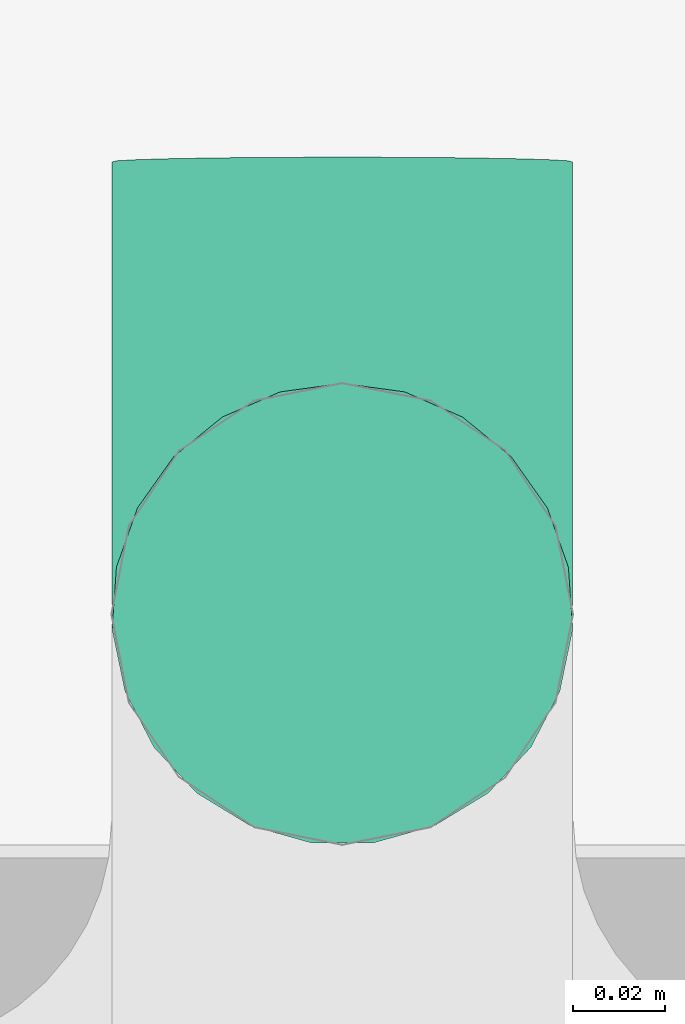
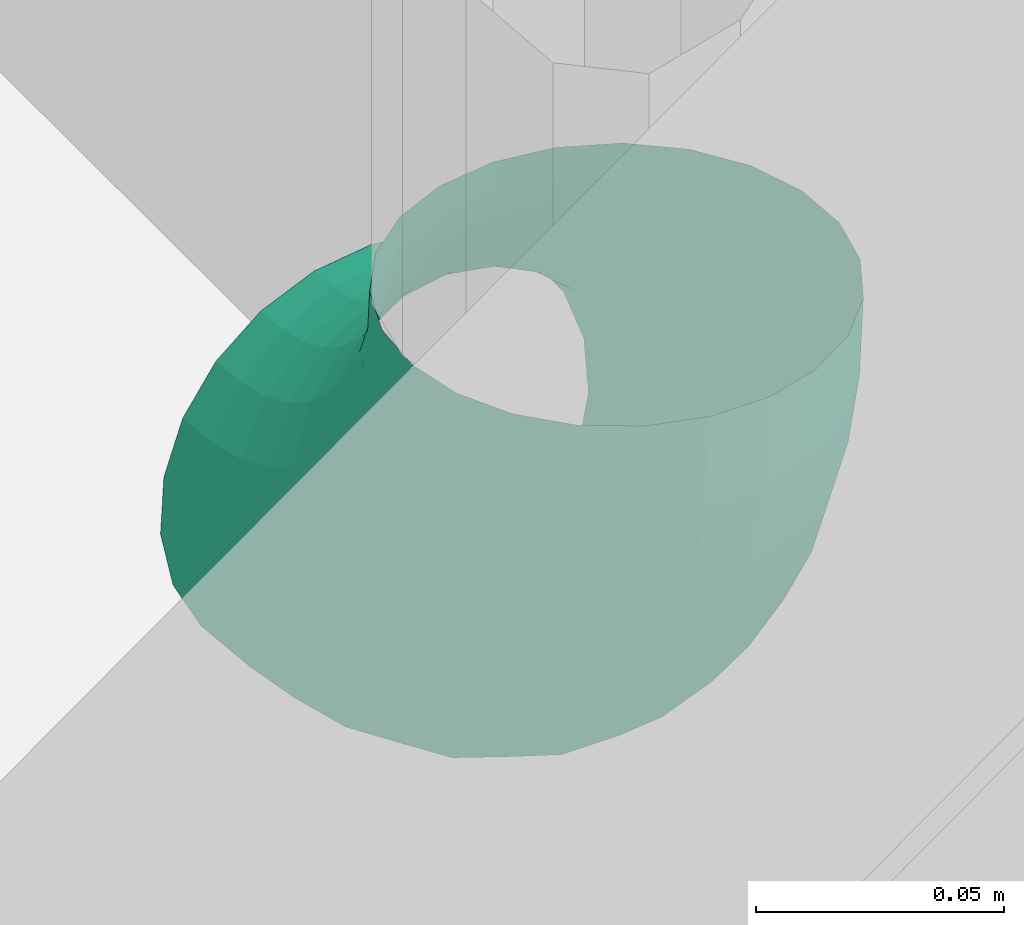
# One storey, part 98 of 106: 1 flow fitting.
"""IFC2X3 building model written with IfcOpenShell, lengths in metres."""

from ifc_helpers import new_model, entity, si_unit, converted_unit, derived_unit, money_unit, direction, frame, origin_with_axes, place, context, subcontext, project, spatial, open_shell, surface_model, material, type_object, element, save


model = new_model("IFC2X3")

# Units and contexts
model_context = context("Model", 3, precision=1e-05, world=origin_with_axes(), true_north=direction((0.0, 1.0)))
body_context = subcontext(model_context, "Body", "Model", "MODEL_VIEW", scale=1.0)
ifc_project = project(units=[si_unit("LENGTHUNIT", "METRE"), si_unit("AREAUNIT", "SQUARE_METRE"), si_unit("VOLUMEUNIT", "CUBIC_METRE"), si_unit("ABSORBEDDOSEUNIT", "GRAY"), si_unit("AMOUNTOFSUBSTANCEUNIT", "MOLE"), si_unit("DOSEEQUIVALENTUNIT", "SIEVERT"), si_unit("ELECTRICCAPACITANCEUNIT", "FARAD"), si_unit("ELECTRICCHARGEUNIT", "COULOMB"), si_unit("ELECTRICCONDUCTANCEUNIT", "SIEMENS"), si_unit("ELECTRICCURRENTUNIT", "AMPERE"), si_unit("ELECTRICRESISTANCEUNIT", "OHM"), si_unit("ELECTRICVOLTAGEUNIT", "VOLT"), si_unit("ENERGYUNIT", "JOULE"), si_unit("FORCEUNIT", "NEWTON"), si_unit("FREQUENCYUNIT", "HERTZ"), si_unit("ILLUMINANCEUNIT", "LUX"), si_unit("INDUCTANCEUNIT", "HENRY"), si_unit("LUMINOUSFLUXUNIT", "LUMEN"), si_unit("LUMINOUSINTENSITYUNIT", "CANDELA"), si_unit("MAGNETICFLUXDENSITYUNIT", "TESLA"), si_unit("MAGNETICFLUXUNIT", "WEBER"), si_unit("MASSUNIT", "GRAM"), converted_unit("PLANEANGLEUNIT", "degree", entity("IfcReal", 0.0174532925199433), si_unit("PLANEANGLEUNIT", "RADIAN"), dimensions=[0, 0, 0, 0, 0, 0, 0]), si_unit("POWERUNIT", "WATT"), si_unit("PRESSUREUNIT", "PASCAL"), si_unit("RADIOACTIVITYUNIT", "BECQUEREL"), si_unit("SOLIDANGLEUNIT", "STERADIAN"), si_unit("THERMODYNAMICTEMPERATUREUNIT", "KELVIN"), si_unit("TIMEUNIT", "SECOND"), derived_unit("ACCELERATIONUNIT", [(si_unit("LENGTHUNIT", "METRE"), 1), (si_unit("TIMEUNIT", "SECOND"), -2)]), derived_unit("ANGULARVELOCITYUNIT", [(converted_unit("PLANEANGLEUNIT", "degree", entity("IfcReal", 0.0174532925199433), si_unit("PLANEANGLEUNIT", "RADIAN"), dimensions=[0, 0, 0, 0, 0, 0, 0]), 1), (si_unit("TIMEUNIT", "SECOND"), -1)]), derived_unit("CURVATUREUNIT", [(converted_unit("PLANEANGLEUNIT", "degree", entity("IfcReal", 0.0174532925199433), si_unit("PLANEANGLEUNIT", "RADIAN"), dimensions=[0, 0, 0, 0, 0, 0, 0]), 1), (si_unit("LENGTHUNIT", "METRE"), -1)]), derived_unit("DYNAMICVISCOSITYUNIT", [(si_unit("PRESSUREUNIT", "PASCAL"), 1), (si_unit("TIMEUNIT", "SECOND"), 1)]), derived_unit("HEATFLUXDENSITYUNIT", [(si_unit("POWERUNIT", "WATT"), 1), (si_unit("LENGTHUNIT", "METRE"), -2)]), derived_unit("HEATINGVALUEUNIT", [(si_unit("ENERGYUNIT", "JOULE"), 1), (si_unit("MASSUNIT", "GRAM"), -1)]), derived_unit("INTEGERCOUNTRATEUNIT", [(si_unit("TIMEUNIT", "SECOND"), -1)]), derived_unit("IONCONCENTRATIONUNIT", [(si_unit("MASSUNIT", "GRAM"), 1), (si_unit("VOLUMEUNIT", "CUBIC_METRE"), -1)]), derived_unit("ISOTHERMALMOISTURECAPACITYUNIT", [(si_unit("VOLUMEUNIT", "CUBIC_METRE"), 1), (si_unit("MASSUNIT", "GRAM"), -1)]), derived_unit("KINEMATICVISCOSITYUNIT", [(si_unit("AREAUNIT", "SQUARE_METRE"), 1), (si_unit("TIMEUNIT", "SECOND"), -1)]), derived_unit("LINEARFORCEUNIT", [(si_unit("FORCEUNIT", "NEWTON"), 1), (si_unit("LENGTHUNIT", "METRE"), -1)]), derived_unit("LINEARMOMENTUNIT", [(si_unit("FORCEUNIT", "NEWTON"), 1), (si_unit("LENGTHUNIT", "METRE"), -1)]), derived_unit("LINEARSTIFFNESSUNIT", [(si_unit("FORCEUNIT", "NEWTON"), 1), (si_unit("LENGTHUNIT", "METRE"), -1)]), derived_unit("LINEARVELOCITYUNIT", [(si_unit("LENGTHUNIT", "METRE"), 1), (si_unit("TIMEUNIT", "SECOND"), -1)]), derived_unit("LUMINOUSINTENSITYDISTRIBUTIONUNIT", [(si_unit("LUMINOUSINTENSITYUNIT", "CANDELA"), 1), (si_unit("LUMINOUSFLUXUNIT", "LUMEN"), -1)]), derived_unit("MASSDENSITYUNIT", [(si_unit("MASSUNIT", "GRAM"), 1), (si_unit("VOLUMEUNIT", "CUBIC_METRE"), -1)]), derived_unit("MASSFLOWRATEUNIT", [(si_unit("MASSUNIT", "GRAM"), 1), (si_unit("TIMEUNIT", "SECOND"), -1)]), derived_unit("MASSPERLENGTHUNIT", [(si_unit("MASSUNIT", "GRAM"), 1), (si_unit("LENGTHUNIT", "METRE"), -1)]), derived_unit("MODULUSOFELASTICITYUNIT", [(si_unit("FORCEUNIT", "NEWTON"), 1), (si_unit("AREAUNIT", "SQUARE_METRE"), -1)]), derived_unit("MODULUSOFLINEARSUBGRADEREACTIONUNIT", [(si_unit("FORCEUNIT", "NEWTON"), 1), (si_unit("LENGTHUNIT", "METRE"), -2)]), derived_unit("MODULUSOFROTATIONALSUBGRADEREACTIONUNIT", [(si_unit("FORCEUNIT", "NEWTON"), 1), (si_unit("LENGTHUNIT", "METRE"), 1)]), derived_unit("MODULUSOFSUBGRADEREACTIONUNIT", [(si_unit("FORCEUNIT", "NEWTON"), 1), (si_unit("VOLUMEUNIT", "CUBIC_METRE"), -1)]), derived_unit("MOISTUREDIFFUSIVITYUNIT", [(si_unit("VOLUMEUNIT", "CUBIC_METRE"), 1), (si_unit("TIMEUNIT", "SECOND"), -1)]), derived_unit("MOLECULARWEIGHTUNIT", [(si_unit("MASSUNIT", "GRAM"), 1), (si_unit("AMOUNTOFSUBSTANCEUNIT", "MOLE"), -1)]), derived_unit("PLANARFORCEUNIT", [(si_unit("FORCEUNIT", "NEWTON"), 1), (si_unit("LENGTHUNIT", "METRE"), -2)]), derived_unit("ROTATIONALFREQUENCYUNIT", [(si_unit("TIMEUNIT", "SECOND"), -1)]), derived_unit("ROTATIONALMASSUNIT", [(si_unit("MASSUNIT", "GRAM"), 1), (si_unit("LENGTHUNIT", "METRE"), 2)]), derived_unit("ROTATIONALSTIFFNESSUNIT", [(si_unit("FORCEUNIT", "NEWTON"), 1), (si_unit("LENGTHUNIT", "METRE"), 1), (converted_unit("PLANEANGLEUNIT", "degree", entity("IfcReal", 0.0174532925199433), si_unit("PLANEANGLEUNIT", "RADIAN"), dimensions=[0, 0, 0, 0, 0, 0, 0]), -1)]), derived_unit("SECTIONAREAINTEGRALUNIT", [(si_unit("LENGTHUNIT", "METRE"), 5)]), derived_unit("SECTIONMODULUSUNIT", [(si_unit("LENGTHUNIT", "METRE"), 3)]), derived_unit("SHEARMODULUSUNIT", [(si_unit("FORCEUNIT", "NEWTON"), 1), (si_unit("AREAUNIT", "SQUARE_METRE"), -1)]), derived_unit("SOUNDPOWERUNIT", [(si_unit("ENERGYUNIT", "JOULE"), 1), (si_unit("TIMEUNIT", "SECOND"), -1)]), derived_unit("SPECIFICHEATCAPACITYUNIT", [(si_unit("FORCEUNIT", "NEWTON"), 1), (si_unit("MASSUNIT", "GRAM"), -1), (si_unit("THERMODYNAMICTEMPERATUREUNIT", "KELVIN"), -1)]), derived_unit("TEMPERATUREGRADIENTUNIT", [(si_unit("THERMODYNAMICTEMPERATUREUNIT", "KELVIN"), 1), (si_unit("LENGTHUNIT", "METRE"), -1)]), derived_unit("THERMALADMITTANCEUNIT", [(si_unit("POWERUNIT", "WATT"), 1), (si_unit("AREAUNIT", "SQUARE_METRE"), -1), (si_unit("THERMODYNAMICTEMPERATUREUNIT", "KELVIN"), -1)]), derived_unit("THERMALCONDUCTANCEUNIT", [(si_unit("POWERUNIT", "WATT"), 1), (si_unit("LENGTHUNIT", "METRE"), -1), (si_unit("THERMODYNAMICTEMPERATUREUNIT", "KELVIN"), -1)]), derived_unit("THERMALEXPANSIONCOEFFICIENTUNIT", [(si_unit("THERMODYNAMICTEMPERATUREUNIT", "KELVIN"), -1)]), derived_unit("THERMALRESISTANCEUNIT", [(si_unit("AREAUNIT", "SQUARE_METRE"), 1), (si_unit("POWERUNIT", "WATT"), -1)]), derived_unit("THERMALTRANSMITTANCEUNIT", [(si_unit("POWERUNIT", "WATT"), 1), (si_unit("AREAUNIT", "SQUARE_METRE"), -1), (si_unit("THERMODYNAMICTEMPERATUREUNIT", "KELVIN"), -1)]), derived_unit("TORQUEUNIT", [(si_unit("FORCEUNIT", "NEWTON"), 1), (si_unit("LENGTHUNIT", "METRE"), 1)]), derived_unit("VAPORPERMEABILITYUNIT", [(si_unit("MASSUNIT", "GRAM"), 1), (si_unit("TIMEUNIT", "SECOND"), -1)]), derived_unit("VOLUMETRICFLOWRATEUNIT", [(si_unit("VOLUMEUNIT", "CUBIC_METRE"), 1), (si_unit("TIMEUNIT", "SECOND"), -1)]), derived_unit("WARPINGCONSTANTUNIT", [(si_unit("LENGTHUNIT", "METRE"), 6)]), derived_unit("WARPINGMOMENTUNIT", [(si_unit("FORCEUNIT", "NEWTON"), 1), (si_unit("LENGTHUNIT", "METRE"), 2)]), money_unit("GBP")], contexts=[model_context])

# Site, building, storey, space
site_placement = place(None, origin_with_axes())
site = spatial("IfcSite", under=ifc_project, at=site_placement, Name="Site", CompositionType="ELEMENT")
building_placement = place(site_placement, origin_with_axes())
building = spatial("IfcBuilding", under=site, at=building_placement, Name="Building01", CompositionType="ELEMENT")
storey_placement = place(building_placement, origin_with_axes())
storey = spatial("IfcBuildingStorey", under=building, at=storey_placement, Name="GF", CompositionType="ELEMENT", Elevation=0.0)
space_placement = place(storey_placement, frame((22.371795, 15.69597, 0.0), z_axis=(0.0, 0.0, 1.0), x_axis=(0.99999771, 0.00214134, 0.0)))
space = spatial("IfcSpace", under=storey, at=space_placement, Name="bike store", CompositionType="ELEMENT", InteriorOrExteriorSpace="NOTDEFINED")

# Flow fitting
ifc_material = material(Name="M_BSUK_ColdWater")
pipe_fitting_type = type_object("IfcPipeFittingType", Name="M-BmpElbow-DefaultElbow", PredefinedType="BEND")
flow_fitting_placement = place(storey_placement, frame((22.216022, 15.048, 0.056721), z_axis=(0.0, -0.01999682, -0.99980004), x_axis=(0.0, 0.99980004, -0.01999682)))
element("IfcFlowFitting", 1, at=flow_fitting_placement, inside=space, type_object=pipe_fitting_type, material=ifc_material, Name="M-BmpElbow-DefaultElbow", ObjectType="M-BmpElbow-DefaultElbow", context=body_context, shape_type="SurfaceModel", body=[
    surface_model("IfcShellBasedSurfaceModel", [(-0.008009, -0.01349, -0.048768), (0.0, -0.01349, -0.048146), (0.0, 0.0, -0.05), (-0.007723, 0.0, -0.0506), (-0.015826, -0.01349, -0.05062), (-0.015261, 0.0, -0.052386), (-0.023264, -0.01349, -0.053657), (-0.022432, 0.0, -0.055314), (-0.030143, -0.01349, -0.057807), (-0.029065, 0.0, -0.059315), (-0.036298, -0.01349, -0.062969), (-0.035, 0.0, -0.064293), (-0.041582, -0.01349, -0.06902), (-0.040095, 0.0, -0.070127), (-0.045868, -0.01349, -0.075814), (-0.044228, 0.0, -0.076679), (-0.049054, -0.01349, -0.083189), (-0.0473, 0.0, -0.08379), (-0.051061, -0.01349, -0.090968), (-0.049236, 0.0, -0.091291), (-0.051844, -0.01349, -0.098963), (-0.04999, 0.0, -0.099), (-0.008847, -0.025979, -0.043408), (0.0, -0.025979, -0.042721), (-0.017482, -0.025979, -0.045454), (-0.025697, -0.025979, -0.048809), (-0.033296, -0.025979, -0.053392), (-0.040095, -0.025979, -0.059095), (-0.045932, -0.025979, -0.065779), (-0.050667, -0.025979, -0.073284), (-0.054185, -0.025979, -0.081431), (-0.056403, -0.025979, -0.090023), (-0.057268, -0.025979, -0.098855), (-0.010175, -0.036542, -0.034918), (0.0, -0.036542, -0.034128), (-0.020105, -0.036542, -0.037271), (-0.029553, -0.036542, -0.041129), (-0.038291, -0.036542, -0.0464), (-0.046111, -0.036542, -0.052958), (-0.052823, -0.036542, -0.060645), (-0.058268, -0.036542, -0.069276), (-0.062315, -0.036542, -0.078645), (-0.064865, -0.036542, -0.088526), (-0.065859, -0.036542, -0.098683), (-0.011893, -0.044394, -0.023927), (0.0, -0.044394, -0.023003), (-0.0235, -0.044394, -0.026677), (-0.034544, -0.044394, -0.031187), (-0.044758, -0.044394, -0.037348), (-0.053898, -0.044394, -0.045013), (-0.061744, -0.044394, -0.053998), (-0.068109, -0.044394, -0.064087), (-0.072838, -0.044394, -0.075038), (-0.07582, -0.044394, -0.086588), (-0.076981, -0.044394, -0.09846), (-0.013875, -0.048954, -0.011251), (0.0, -0.048954, -0.010173), (-0.027416, -0.048954, -0.014459), (-0.0403, -0.048954, -0.01972), (-0.052216, -0.048954, -0.026908), (-0.062879, -0.048954, -0.035851), (-0.072033, -0.048954, -0.046333), (-0.079458, -0.048954, -0.058103), (-0.084976, -0.048954, -0.070879), (-0.088454, -0.048954, -0.084353), (-0.089809, -0.048954, -0.098204), (-0.015973, -0.049883, 0.002171), (0.0, -0.049883, 0.003412), (-0.031562, -0.049883, -0.001522), (-0.046394, -0.049883, -0.007579), (-0.060113, -0.049883, -0.015854), (-0.072389, -0.049883, -0.026149), (-0.082927, -0.049883, -0.038216), (-0.091475, -0.049883, -0.051767), (-0.097827, -0.049883, -0.066475), (-0.101831, -0.049883, -0.081987), (-0.103391, -0.049883, -0.097932), (-0.018032, -0.047113, 0.015343), (0.0, -0.047113, 0.016744), (-0.035632, -0.047113, 0.011174), (-0.052376, -0.047113, 0.004336), (-0.067863, -0.047113, -0.005006), (-0.081721, -0.047113, -0.016628), (-0.093618, -0.047113, -0.030251), (-0.103268, -0.047113, -0.045548), (-0.110439, -0.047113, -0.062153), (-0.114959, -0.047113, -0.079665), (-0.116721, -0.047113, -0.097665), (-0.0199, -0.040848, 0.027288), (0.0, -0.040848, 0.028834), (-0.039322, -0.040848, 0.022687), (-0.0578, -0.040848, 0.015141), (-0.074891, -0.040848, 0.004831), (-0.090184, -0.040848, -0.007994), (-0.103313, -0.040848, -0.023028), (-0.113962, -0.040848, -0.039909), (-0.121876, -0.040848, -0.058233), (-0.126865, -0.040848, -0.077559), (-0.128808, -0.040848, -0.097424), (-0.021437, -0.031554, 0.03712), (0.0, -0.031554, 0.038786), (-0.042359, -0.031554, 0.032163), (-0.062264, -0.031554, 0.024035), (-0.080675, -0.031554, 0.012929), (-0.09715, -0.031554, -0.000887), (-0.111293, -0.031554, -0.017083), (-0.122765, -0.031554, -0.035268), (-0.13129, -0.031554, -0.055007), (-0.136664, -0.031554, -0.075826), (-0.138758, -0.031554, -0.097225), (-0.022529, -0.01992, 0.04411), (0.0, -0.01992, 0.045861), (-0.044518, -0.01992, 0.038901), (-0.065438, -0.01992, 0.030358), (-0.084788, -0.01992, 0.018686), (-0.102103, -0.01992, 0.004165), (-0.116966, -0.01992, -0.012856), (-0.129023, -0.01992, -0.031968), (-0.137983, -0.01992, -0.052713), (-0.143631, -0.01992, -0.074593), (-0.145831, -0.01992, -0.097083), (-0.023097, -0.006808, 0.04774), (0.0, -0.006808, 0.049534), (-0.045639, -0.006808, 0.042399), (-0.067087, -0.006808, 0.033641), (-0.086924, -0.006808, 0.021675), (-0.104674, -0.006808, 0.006789), (-0.119912, -0.006808, -0.010661), (-0.132273, -0.006808, -0.030254), (-0.141458, -0.006808, -0.051522), (-0.147248, -0.006808, -0.073953), (-0.149504, -0.006808, -0.09701), (-0.023097, 0.006808, 0.04774), (0.0, 0.006808, 0.049534), (-0.045639, 0.006808, 0.042399), (-0.067087, 0.006808, 0.033641), (-0.086924, 0.006808, 0.021675), (-0.104674, 0.006808, 0.006789), (-0.119912, 0.006808, -0.010661), (-0.132273, 0.006808, -0.030254), (-0.141458, 0.006808, -0.051522), (-0.147248, 0.006808, -0.073953), (-0.149504, 0.006808, -0.09701), (-0.022529, 0.01992, 0.04411), (0.0, 0.01992, 0.045861), (-0.044518, 0.01992, 0.038901), (-0.065438, 0.01992, 0.030358), (-0.084788, 0.01992, 0.018686), (-0.102103, 0.01992, 0.004165), (-0.116966, 0.01992, -0.012856), (-0.129023, 0.01992, -0.031968), (-0.137983, 0.01992, -0.052713), (-0.143631, 0.01992, -0.074593), (-0.145831, 0.01992, -0.097083), (-0.021437, 0.031554, 0.03712), (0.0, 0.031554, 0.038786), (-0.042359, 0.031554, 0.032163), (-0.062264, 0.031554, 0.024035), (-0.080675, 0.031554, 0.012929), (-0.09715, 0.031554, -0.000887), (-0.111293, 0.031554, -0.017083), (-0.122765, 0.031554, -0.035268), (-0.13129, 0.031554, -0.055007), (-0.136664, 0.031554, -0.075826), (-0.138758, 0.031554, -0.097225), (-0.0199, 0.040848, 0.027288), (0.0, 0.040848, 0.028834), (-0.039322, 0.040848, 0.022687), (-0.0578, 0.040848, 0.015141), (-0.074891, 0.040848, 0.004831), (-0.090184, 0.040848, -0.007994), (-0.103313, 0.040848, -0.023028), (-0.113962, 0.040848, -0.039909), (-0.121876, 0.040848, -0.058233), (-0.126865, 0.040848, -0.077559), (-0.128808, 0.040848, -0.097424), (-0.018032, 0.047113, 0.015343), (0.0, 0.047113, 0.016744), (-0.035632, 0.047113, 0.011174), (-0.052376, 0.047113, 0.004336), (-0.067863, 0.047113, -0.005006), (-0.081721, 0.047113, -0.016628), (-0.093618, 0.047113, -0.030251), (-0.103268, 0.047113, -0.045548), (-0.110439, 0.047113, -0.062153), (-0.114959, 0.047113, -0.079665), (-0.116721, 0.047113, -0.097665), (-0.015973, 0.049883, 0.002171), (0.0, 0.049883, 0.003412), (-0.031562, 0.049883, -0.001522), (-0.046394, 0.049883, -0.007579), (-0.060113, 0.049883, -0.015854), (-0.072389, 0.049883, -0.026149), (-0.082927, 0.049883, -0.038216), (-0.091475, 0.049883, -0.051767), (-0.097827, 0.049883, -0.066475), (-0.101831, 0.049883, -0.081987), (-0.103391, 0.049883, -0.097932), (-0.013875, 0.048954, -0.011251), (0.0, 0.048954, -0.010173), (-0.027416, 0.048954, -0.014459), (-0.0403, 0.048954, -0.01972), (-0.052216, 0.048954, -0.026908), (-0.062879, 0.048954, -0.035851), (-0.072033, 0.048954, -0.046333), (-0.079458, 0.048954, -0.058103), (-0.084976, 0.048954, -0.070879), (-0.088454, 0.048954, -0.084353), (-0.089809, 0.048954, -0.098204), (-0.011893, 0.044394, -0.023927), (0.0, 0.044394, -0.023003), (-0.0235, 0.044394, -0.026677), (-0.034544, 0.044394, -0.031187), (-0.044758, 0.044394, -0.037348), (-0.053898, 0.044394, -0.045013), (-0.061744, 0.044394, -0.053998), (-0.068109, 0.044394, -0.064087), (-0.072838, 0.044394, -0.075038), (-0.07582, 0.044394, -0.086588), (-0.076981, 0.044394, -0.09846), (-0.010175, 0.036542, -0.034918), (0.0, 0.036542, -0.034128), (-0.020105, 0.036542, -0.037271), (-0.029553, 0.036542, -0.041129), (-0.038291, 0.036542, -0.0464), (-0.046111, 0.036542, -0.052958), (-0.052823, 0.036542, -0.060645), (-0.058268, 0.036542, -0.069276), (-0.062315, 0.036542, -0.078645), (-0.064865, 0.036542, -0.088526), (-0.065859, 0.036542, -0.098683), (-0.008847, 0.025979, -0.043408), (0.0, 0.025979, -0.042721), (-0.017482, 0.025979, -0.045454), (-0.025697, 0.025979, -0.048809), (-0.033296, 0.025979, -0.053392), (-0.040095, 0.025979, -0.059095), (-0.045932, 0.025979, -0.065779), (-0.050667, 0.025979, -0.073284), (-0.054185, 0.025979, -0.081431), (-0.056403, 0.025979, -0.090023), (-0.057268, 0.025979, -0.098855), (-0.008009, 0.01349, -0.048768), (0.0, 0.01349, -0.048146), (-0.015826, 0.01349, -0.05062), (-0.023264, 0.01349, -0.053657), (-0.030143, 0.01349, -0.057807), (-0.036298, 0.01349, -0.062969), (-0.041582, 0.01349, -0.06902), (-0.045868, 0.01349, -0.075814), (-0.049054, 0.01349, -0.083189), (-0.051061, 0.01349, -0.090968), (-0.051844, 0.01349, -0.098963)], [open_shell([[[0, 1, 2, 3]], [[4, 0, 3, 5]], [[6, 4, 5, 7]], [[8, 6, 7, 9]], [[10, 8, 9, 11]], [[12, 10, 11, 13]], [[14, 12, 13, 15]], [[16, 14, 15, 17]], [[18, 16, 17, 19]], [[20, 18, 19, 21]], [[22, 23, 1, 0]], [[24, 22, 0, 4]], [[25, 24, 4, 6]], [[26, 25, 6, 8]], [[27, 26, 8, 10]], [[28, 27, 10, 12]], [[29, 28, 12, 14]], [[30, 29, 14, 16]], [[31, 30, 16, 18]], [[32, 31, 18, 20]], [[33, 34, 23, 22]], [[35, 33, 22, 24]], [[36, 35, 24, 25]], [[37, 36, 25, 26]], [[38, 37, 26, 27]], [[39, 38, 27, 28]], [[40, 39, 28, 29]], [[41, 40, 29, 30]], [[42, 41, 30, 31]], [[43, 42, 31, 32]], [[44, 45, 34, 33]], [[46, 44, 33, 35]], [[47, 46, 35, 36]], [[48, 47, 36, 37]], [[49, 48, 37, 38]], [[50, 49, 38, 39]], [[51, 50, 39, 40]], [[52, 51, 40, 41]], [[53, 52, 41, 42]], [[54, 53, 42, 43]], [[55, 56, 45, 44]], [[57, 55, 44, 46]], [[58, 57, 46, 47]], [[59, 58, 47, 48]], [[60, 59, 48, 49]], [[61, 60, 49, 50]], [[62, 61, 50, 51]], [[63, 62, 51, 52]], [[64, 63, 52, 53]], [[65, 64, 53, 54]], [[66, 67, 56, 55]], [[68, 66, 55, 57]], [[69, 68, 57, 58]], [[70, 69, 58, 59]], [[71, 70, 59, 60]], [[72, 71, 60, 61]], [[73, 72, 61, 62]], [[74, 73, 62, 63]], [[75, 74, 63, 64]], [[76, 75, 64, 65]], [[77, 78, 67, 66]], [[79, 77, 66, 68]], [[80, 79, 68, 69]], [[81, 80, 69, 70]], [[82, 81, 70, 71]], [[83, 82, 71, 72]], [[84, 83, 72, 73]], [[85, 84, 73, 74]], [[86, 85, 74, 75]], [[87, 86, 75, 76]], [[88, 89, 78, 77]], [[90, 88, 77, 79]], [[91, 90, 79, 80]], [[92, 91, 80, 81]], [[93, 92, 81, 82]], [[94, 93, 82, 83]], [[95, 94, 83, 84]], [[96, 95, 84, 85]], [[97, 96, 85, 86]], [[98, 97, 86, 87]], [[99, 100, 89, 88]], [[101, 99, 88, 90]], [[102, 101, 90, 91]], [[103, 102, 91, 92]], [[104, 103, 92, 93]], [[105, 104, 93, 94]], [[106, 105, 94, 95]], [[107, 106, 95, 96]], [[108, 107, 96, 97]], [[109, 108, 97, 98]], [[110, 111, 100, 99]], [[112, 110, 99, 101]], [[113, 112, 101, 102]], [[114, 113, 102, 103]], [[115, 114, 103, 104]], [[116, 115, 104, 105]], [[117, 116, 105, 106]], [[118, 117, 106, 107]], [[119, 118, 107, 108]], [[120, 119, 108, 109]], [[121, 122, 111, 110]], [[123, 121, 110, 112]], [[124, 123, 112, 113]], [[125, 124, 113, 114]], [[126, 125, 114, 115]], [[127, 126, 115, 116]], [[128, 127, 116, 117]], [[129, 128, 117, 118]], [[130, 129, 118, 119]], [[131, 130, 119, 120]], [[132, 133, 122, 121]], [[134, 132, 121, 123]], [[135, 134, 123, 124]], [[136, 135, 124, 125]], [[137, 136, 125, 126]], [[138, 137, 126, 127]], [[139, 138, 127, 128]], [[140, 139, 128, 129]], [[141, 140, 129, 130]], [[142, 141, 130, 131]], [[143, 144, 133, 132]], [[145, 143, 132, 134]], [[146, 145, 134, 135]], [[147, 146, 135, 136]], [[148, 147, 136, 137]], [[149, 148, 137, 138]], [[150, 149, 138, 139]], [[151, 150, 139, 140]], [[152, 151, 140, 141]], [[153, 152, 141, 142]], [[154, 155, 144, 143]], [[156, 154, 143, 145]], [[157, 156, 145, 146]], [[158, 157, 146, 147]], [[159, 158, 147, 148]], [[160, 159, 148, 149]], [[161, 160, 149, 150]], [[162, 161, 150, 151]], [[163, 162, 151, 152]], [[164, 163, 152, 153]], [[165, 166, 155, 154]], [[167, 165, 154, 156]], [[168, 167, 156, 157]], [[169, 168, 157, 158]], [[170, 169, 158, 159]], [[171, 170, 159, 160]], [[172, 171, 160, 161]], [[173, 172, 161, 162]], [[174, 173, 162, 163]], [[175, 174, 163, 164]], [[176, 177, 166, 165]], [[178, 176, 165, 167]], [[179, 178, 167, 168]], [[180, 179, 168, 169]], [[181, 180, 169, 170]], [[182, 181, 170, 171]], [[183, 182, 171, 172]], [[184, 183, 172, 173]], [[185, 184, 173, 174]], [[186, 185, 174, 175]], [[187, 188, 177, 176]], [[189, 187, 176, 178]], [[190, 189, 178, 179]], [[191, 190, 179, 180]], [[192, 191, 180, 181]], [[193, 192, 181, 182]], [[194, 193, 182, 183]], [[195, 194, 183, 184]], [[196, 195, 184, 185]], [[197, 196, 185, 186]], [[198, 199, 188, 187]], [[200, 198, 187, 189]], [[201, 200, 189, 190]], [[202, 201, 190, 191]], [[203, 202, 191, 192]], [[204, 203, 192, 193]], [[205, 204, 193, 194]], [[206, 205, 194, 195]], [[207, 206, 195, 196]], [[208, 207, 196, 197]], [[209, 210, 199, 198]], [[211, 209, 198, 200]], [[212, 211, 200, 201]], [[213, 212, 201, 202]], [[214, 213, 202, 203]], [[215, 214, 203, 204]], [[216, 215, 204, 205]], [[217, 216, 205, 206]], [[218, 217, 206, 207]], [[219, 218, 207, 208]], [[220, 221, 210, 209]], [[222, 220, 209, 211]], [[223, 222, 211, 212]], [[224, 223, 212, 213]], [[225, 224, 213, 214]], [[226, 225, 214, 215]], [[227, 226, 215, 216]], [[228, 227, 216, 217]], [[229, 228, 217, 218]], [[230, 229, 218, 219]], [[231, 232, 221, 220]], [[233, 231, 220, 222]], [[234, 233, 222, 223]], [[235, 234, 223, 224]], [[236, 235, 224, 225]], [[237, 236, 225, 226]], [[238, 237, 226, 227]], [[239, 238, 227, 228]], [[240, 239, 228, 229]], [[241, 240, 229, 230]], [[242, 243, 232, 231]], [[244, 242, 231, 233]], [[245, 244, 233, 234]], [[246, 245, 234, 235]], [[247, 246, 235, 236]], [[248, 247, 236, 237]], [[249, 248, 237, 238]], [[250, 249, 238, 239]], [[251, 250, 239, 240]], [[252, 251, 240, 241]], [[3, 2, 243, 242]], [[5, 3, 242, 244]], [[7, 5, 244, 245]], [[9, 7, 245, 246]], [[11, 9, 246, 247]], [[13, 11, 247, 248]], [[15, 13, 248, 249]], [[17, 15, 249, 250]], [[19, 17, 250, 251]], [[21, 19, 251, 252]]])]),
])

save(model, "model.ifc")
